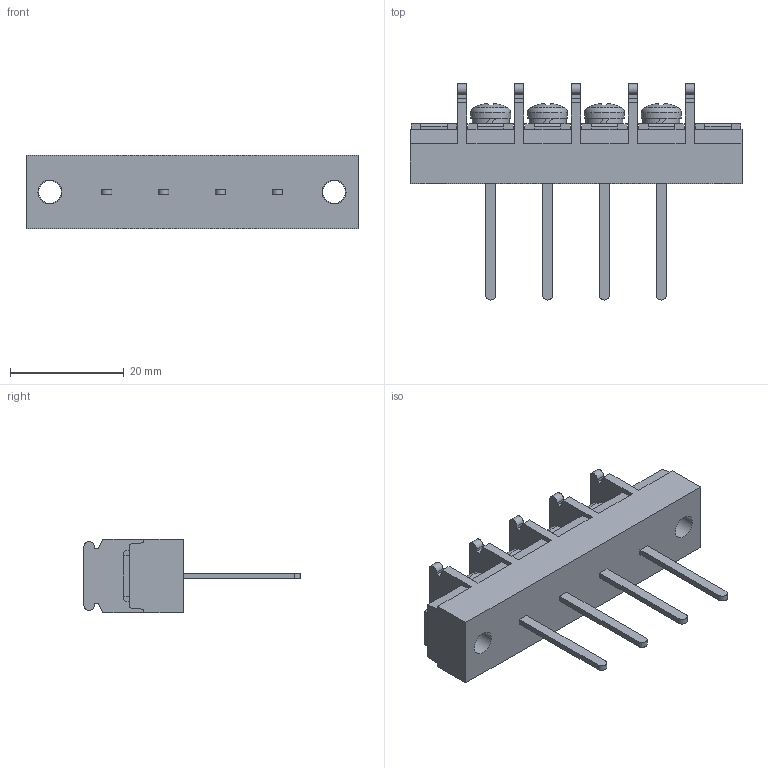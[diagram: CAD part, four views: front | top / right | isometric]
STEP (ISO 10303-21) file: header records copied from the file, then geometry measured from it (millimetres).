
FILE_DESCRIPTION(/* description */ ('Alibre Inc.'),/* implementation_level */ '2;1');
FILE_NAME(/* name */ 'export0',/* time_stamp */ '2015-10-17T19:30:51+09:00',/* author */ (''),/* organization */ (''),/* preprocessor_version */ 'ST-DEVELOPER v14',/* originating_system */ 'Alibre',/* authorisation */ '');
FILE_SCHEMA (('CONFIG_CONTROL_DESIGN'));
Length unit declared in the file: centimetre
Products named in the file (1): ID_1
Bounding box: 58.4 x 38 x 13 mm (x, y, z)
Volume: 8443.2 mm3; surface area: 5368 mm2
Topology: 1 solids, 17 shells, 692 faces, 1856 edges, 1234 vertices
Faces by surface type: plane 518, bspline 104, cylinder 42, cone 16, torus 8, sphere 4
Full cylindrical faces by diameter (mm): 4 x6, 4.2 x2, 6.5 x4, 7 x4
Entity records: 20917 total; most frequent: CARTESIAN_POINT 4791, ORIENTED_EDGE 3644, DIRECTION 2434, EDGE_CURVE 1822, VECTOR 1386, LINE 1386, VERTEX_POINT 1220, AXIS2_PLACEMENT_3D 777
